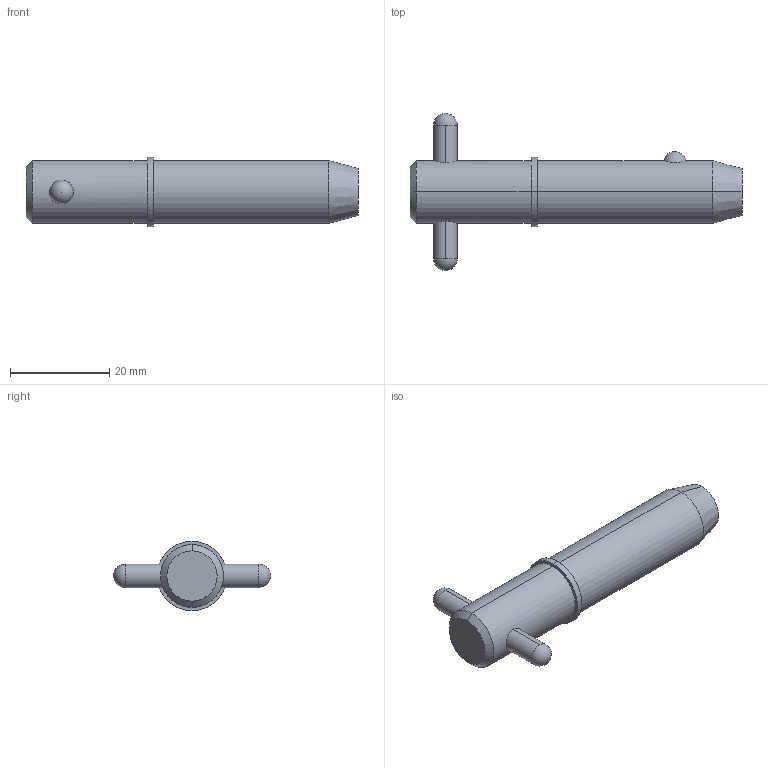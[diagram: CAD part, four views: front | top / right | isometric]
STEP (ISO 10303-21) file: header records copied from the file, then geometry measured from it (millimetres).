
FILE_DESCRIPTION (( 'STEP AP203' ), '1' );
FILE_NAME ('33018.W5010.step', '2024-11-19T17:14:23', ( '' ), ( '' ), 'SwSTEP 2.0', 'SolidWorks 2019', '' );
FILE_SCHEMA (( 'CONFIG_CONTROL_DESIGN' ));
Length unit declared in the file: millimetre
Products named in the file (3): Part1_33018.W5010; 33018.W5010; Part2_33018.W5010
Assembly tree (2 placements, depth 2):
  33018.W5010
    Part1_33018.W5010
    Part2_33018.W5010
Bounding box: 66.98 x 31.75 x 13.97 mm (x, y, z)
Volume: 8651.5 mm3; surface area: 3508.6 mm2
Topology: 2 solids, 2 shells, 22 faces, 47 edges, 30 vertices
Faces by surface type: cylinder 10, sphere 4, cone 4, plane 4
Entity records: 1043 total; most frequent: CARTESIAN_POINT 286, DIRECTION 110, ORIENTED_EDGE 82, AXIS2_PLACEMENT_3D 48, EDGE_CURVE 41, EDGE_LOOP 27, PERSON_AND_ORGANIZATION 26, VERTEX_POINT 26
